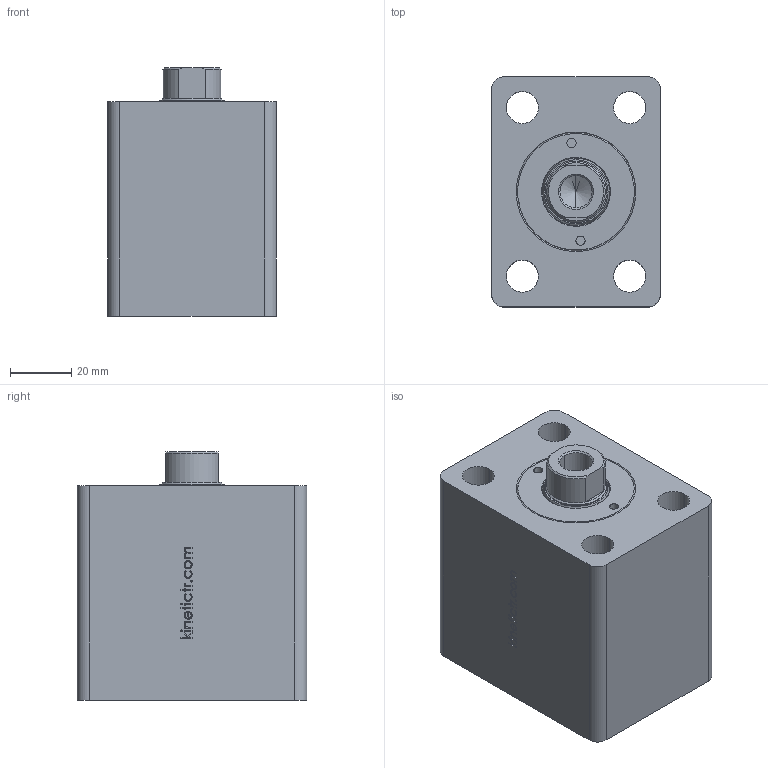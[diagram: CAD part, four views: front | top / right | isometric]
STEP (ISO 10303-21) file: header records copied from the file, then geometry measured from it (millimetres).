
FILE_DESCRIPTION (( 'STEP AP214' ), '1' );
FILE_NAME ('KBZ_02_32_20_20_WEB.STEP', '2020-05-27T09:17:28', ( '' ), ( '' ), 'SwSTEP 2.0', 'SolidWorks 2018', '' );
FILE_SCHEMA (( 'AUTOMOTIVE_DESIGN' ));
Length unit declared in the file: millimetre
Products named in the file (5): KBZ_02_32_20_20_WEB; KBZ_02_32_GOVDE; KBZ_02_32_ON_kapak_WEB; 20_K_MIL; K06-20X25X4_3X6
Assembly tree (4 placements, depth 2):
  KBZ_02_32_20_20_WEB
    KBZ_02_32_GOVDE
    20_K_MIL
    KBZ_02_32_ON_kapak_WEB
    K06-20X25X4_3X6
Bounding box: 55 x 75 x 81 mm (x, y, z)
Volume: 237085.5 mm3; surface area: 53812.2 mm2
Topology: 4 solids, 4 shells, 341 faces, 825 edges, 526 vertices
Faces by surface type: plane 133, cylinder 72, bspline 69, cone 67
Entity records: 13510 total; most frequent: CARTESIAN_POINT 5543, ORIENTED_EDGE 1646, DIRECTION 1438, EDGE_CURVE 823, VERTEX_POINT 526, AXIS2_PLACEMENT_3D 491, VECTOR 456, LINE 456
